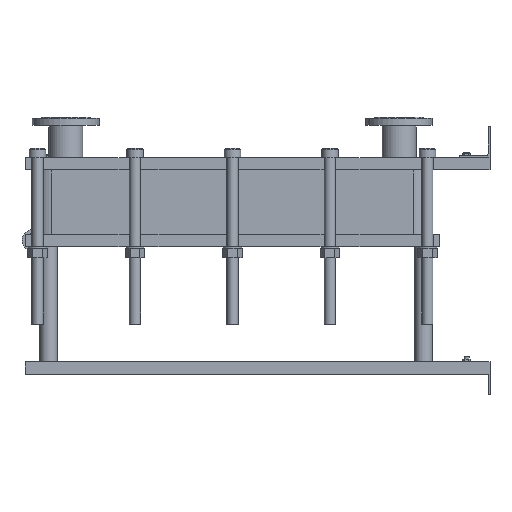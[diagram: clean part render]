
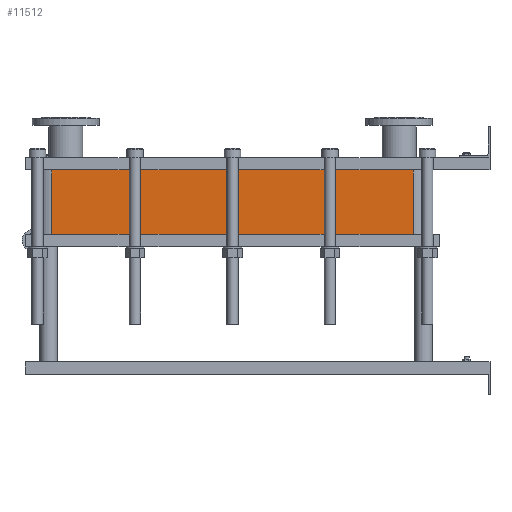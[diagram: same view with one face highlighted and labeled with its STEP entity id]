
A CAD part, left-side view. The second image highlights one B-rep face of the part: STEP entity #11512.
In plain terms, the highlighted planar face has unit normal (-1, 0, 0).
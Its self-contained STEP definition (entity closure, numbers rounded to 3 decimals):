
#1129=LINE('',#23232,#2102);
#1130=LINE('',#23236,#2103);
#1131=LINE('',#23238,#2104);
#1132=LINE('',#23239,#2105);
#2102=VECTOR('',#15887,10.);
#2103=VECTOR('',#15892,10.);
#2104=VECTOR('',#15893,10.);
#2105=VECTOR('',#15894,10.);
#3267=FACE_OUTER_BOUND('',#4093,.T.);
#4093=EDGE_LOOP('',(#10103,#10104,#10105,#10106));
#5642=VERTEX_POINT('',#23229);
#5643=VERTEX_POINT('',#23231);
#5644=VERTEX_POINT('',#23235);
#5645=VERTEX_POINT('',#23237);
#7159=EDGE_CURVE('',#5643,#5642,#1129,.T.);
#7161=EDGE_CURVE('',#5642,#5644,#1130,.T.);
#7162=EDGE_CURVE('',#5645,#5644,#1131,.T.);
#7163=EDGE_CURVE('',#5645,#5643,#1132,.T.);
#10103=ORIENTED_EDGE('',*,*,#7161,.T.);
#10104=ORIENTED_EDGE('',*,*,#7162,.F.);
#10105=ORIENTED_EDGE('',*,*,#7163,.T.);
#10106=ORIENTED_EDGE('',*,*,#7159,.T.);
#10857=PLANE('',#12751);
#11512=ADVANCED_FACE('',(#3267),#10857,.T.);
#12751=AXIS2_PLACEMENT_3D('',#23234,#15890,#15891);
#15887=DIRECTION('',(0.,0.,-1.));
#15890=DIRECTION('center_axis',(-1.,0.,0.));
#15891=DIRECTION('ref_axis',(0.,1.,0.));
#15892=DIRECTION('',(0.,-1.,0.));
#15893=DIRECTION('',(0.,0.,-1.));
#15894=DIRECTION('',(0.,1.,0.));
#23229=CARTESIAN_POINT('',(-200.,1414.,-207.));
#23231=CARTESIAN_POINT('',(-200.,1414.,0.));
#23232=CARTESIAN_POINT('',(-200.,1414.,0.));
#23234=CARTESIAN_POINT('Origin',(-200.,248.,0.));
#23235=CARTESIAN_POINT('',(-200.,248.,-207.));
#23236=CARTESIAN_POINT('',(-200.,539.5,-207.));
#23237=CARTESIAN_POINT('',(-200.,248.,0.));
#23238=CARTESIAN_POINT('',(-200.,248.,0.));
#23239=CARTESIAN_POINT('',(-200.,248.,0.));
